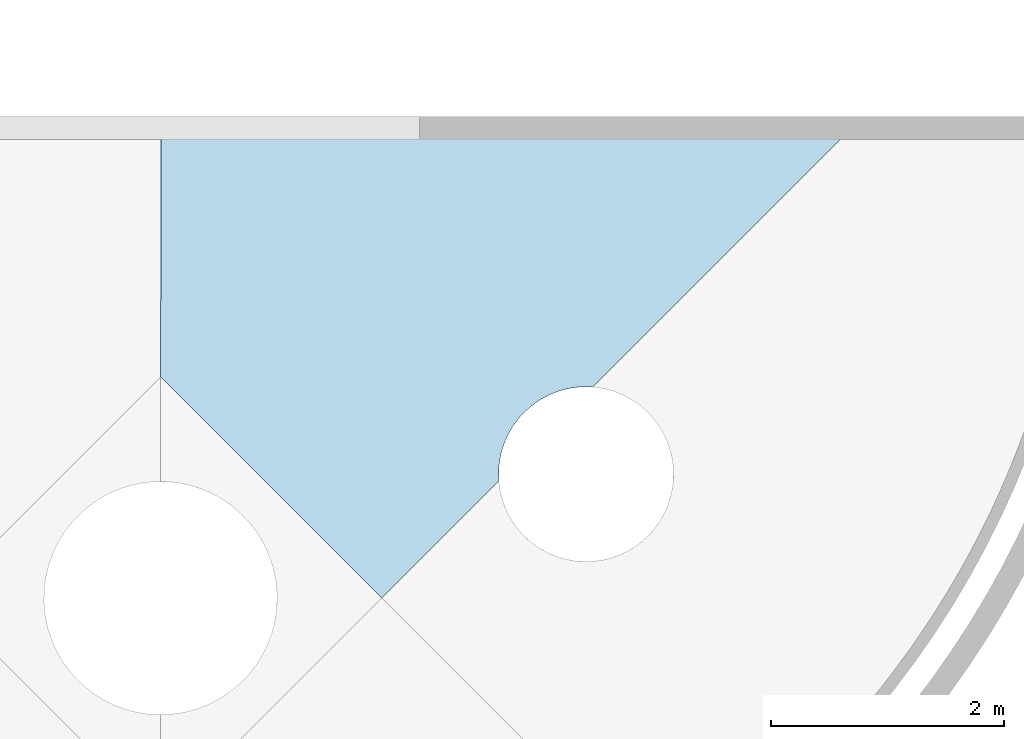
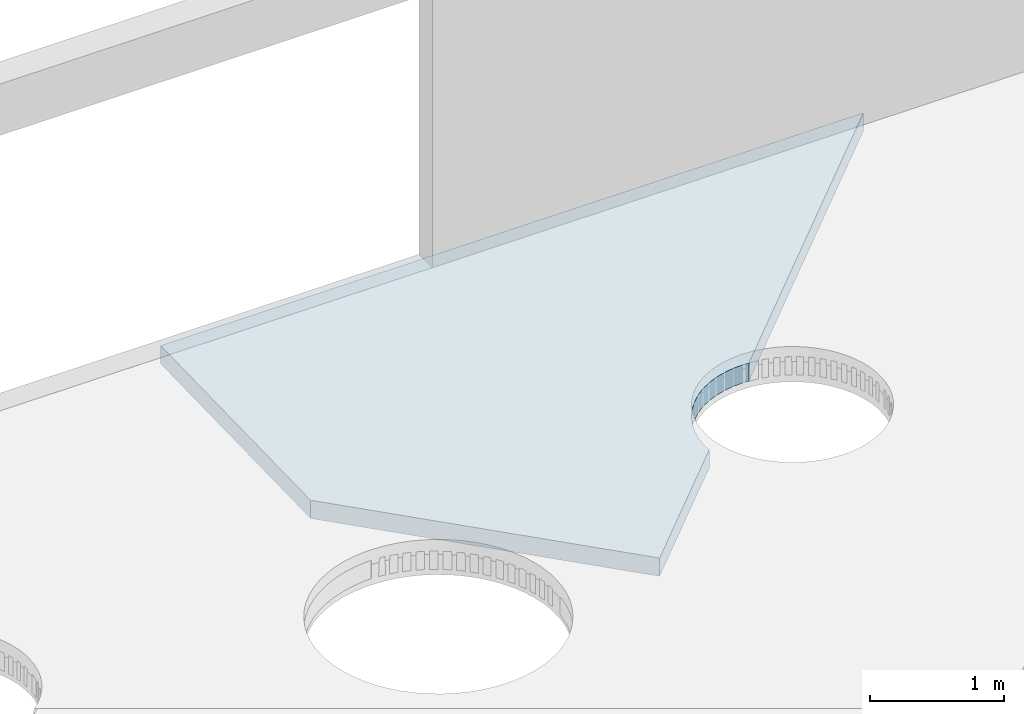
# One storey, part 6 of 10: 1 slab.
"""IFC4 building model written with IfcOpenShell, lengths in millimetres."""

from ifc_helpers import new_model, entity, si_unit, converted_unit, derived_unit, direction, frame, origin_with_axes, place, context, subcontext, project, spatial, polygons, material, constituent, constituent_set, type_object, element, save


model = new_model("IFC4")

# Units and contexts
model_context = context("Model", 3, precision=0.01, world=origin_with_axes(), true_north=direction((0.0, 1.0)))
body_context = subcontext(model_context, "Body", "Model", "MODEL_VIEW")
ifc_project = project(units=[si_unit("LENGTHUNIT", "METRE", prefix="MILLI"), si_unit("AREAUNIT", "SQUARE_METRE"), si_unit("VOLUMEUNIT", "CUBIC_METRE"), converted_unit("PLANEANGLEUNIT", "DEGREE", entity("IfcPlaneAngleMeasure", 0.0174532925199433), si_unit("PLANEANGLEUNIT", "RADIAN"), dimensions=[0, 0, 0, 0, 0, 0, 0]), converted_unit("TIMEUNIT", "Year", entity("IfcTimeMeasure", 31557600.0), si_unit("TIMEUNIT", "SECOND"), dimensions=[0, 0, 1, 0, 0, 0, 0]), si_unit("MASSUNIT", "GRAM", prefix="KILO"), si_unit("THERMODYNAMICTEMPERATUREUNIT", "DEGREE_CELSIUS"), si_unit("LUMINOUSINTENSITYUNIT", "LUMEN"), si_unit("ENERGYUNIT", "JOULE", prefix="MEGA"), derived_unit("THERMALCONDUCTANCEUNIT", [(si_unit("POWERUNIT", "WATT"), 1), (si_unit("LENGTHUNIT", "METRE"), -1), (si_unit("THERMODYNAMICTEMPERATUREUNIT", "KELVIN"), -1)]), derived_unit("SPECIFICHEATCAPACITYUNIT", [(si_unit("ENERGYUNIT", "JOULE"), 1), (si_unit("MASSUNIT", "GRAM", prefix="KILO"), -1), (si_unit("THERMODYNAMICTEMPERATUREUNIT", "KELVIN"), -1)]), derived_unit("MASSDENSITYUNIT", [(si_unit("MASSUNIT", "GRAM", prefix="KILO"), 1), (si_unit("VOLUMEUNIT", "CUBIC_METRE"), -1)])], contexts=[model_context])

# Site, building, storey
site_placement = place(None, origin_with_axes())
site = spatial("IfcSite", under=ifc_project, at=site_placement, Name="Exteriér", CompositionType="ELEMENT")
building_placement = place(site_placement, origin_with_axes())
building = spatial("IfcBuilding", under=site, at=building_placement, Name="Univerzitní lezecké centrum", CompositionType="ELEMENT")
storey_placement = place(building_placement, frame((0.0, 0.0, 9600.000000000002), z_axis=(0.0, 0.0, 1.0), x_axis=(1.0, 0.0, 0.0)))
storey = spatial("IfcBuildingStorey", under=building, at=storey_placement, Name="4.NP", CompositionType="ELEMENT", Elevation=9600.0)

# Slab
ifc_material_1 = material(Name="TPO fólie ochranná")
ifc_constituent_1 = constituent(ifc_material_1, Name="TPO fólie ochranná")
ifc_material_2 = material(Name="Geotextilie 200 g/m2")
ifc_constituent_2 = constituent(ifc_material_2, Name="Geotextilie 200 g/m2")
ifc_material_3 = material(Name="Hydroizolace - TPO fólie")
ifc_constituent_3 = constituent(ifc_material_3, Name="Hydroizolace - TPO fólie")
ifc_material_4 = material(Name="Tepelná izolace - polystyren EPS podlahy")
ifc_constituent_4 = constituent(ifc_material_4, Name="Tepelná izolace - polystyren EPS podlahy")
ifc_constituent_set = constituent_set(constituents=[ifc_constituent_1, ifc_constituent_2, ifc_constituent_3, ifc_constituent_4], Name="!Podlaha spádovaná - terasy - TI + HI vrstva")
slab_type = type_object("IfcSlabType", Name="!Podlaha spádovaná - terasy - TI + HI vrstva 166", PredefinedType="ROOF")
slab_placement = place(storey_placement, frame((4459.647534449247, -4444.297170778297, -300.0062110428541), z_axis=(0.0, 0.0, 1.0), x_axis=(0.9999973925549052, -0.002283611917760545, 0.0)))
element("IfcSlab", 1, at=slab_placement, inside=storey, type_object=slab_type, material=ifc_constituent_set, PredefinedType="ROOF", context=body_context, shape_type="Tessellation", body=[
    polygons([(-2014.040529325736, 4140.013164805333, 248.8334599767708), (-2014.140000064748, 1900.000030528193, 204.0331972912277), (-109.8054002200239, 4.0332646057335, 166.1138619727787), (896.2517576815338, 1014.695749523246, 186.3271116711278), (892.9520154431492, 1093.504988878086, 187.9032964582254), (900.3676057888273, 1180.554755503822, 189.6442917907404), (917.8389156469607, 1266.155025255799, 191.3562971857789), (945.1296755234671, 1349.148201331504, 193.0161607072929), (981.8708247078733, 1428.41194339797, 194.6014355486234), (1027.565502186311, 1502.874345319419, 196.0906835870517), (1081.595765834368, 1571.528430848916, 197.4637652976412), (1112.41335742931, 1602.487101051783, 198.0829387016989), (1170.062229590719, 1656.323637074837, 199.1596694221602), (1240.943371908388, 1707.39728266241, 200.1811423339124), (1317.274529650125, 1749.896788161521, 201.0311324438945), (1398.02345485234, 1783.247420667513, 201.6981450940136), (1482.098156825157, 1806.998170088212, 202.1731600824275), (1568.361669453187, 1820.827848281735, 202.4497536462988), (1655.647426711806, 1824.549432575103, 202.524185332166), (1699.211232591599, 1821.331013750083, 202.4598169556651), (4020.743059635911, 4153.490092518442, 249.1029985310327), (-2014.04053110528, 4140.013164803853, 246.8330600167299), (-2014.140001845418, 1900.000032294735, 202.0327973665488), (-109.8054002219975, 4.033264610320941, 164.1134620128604), (896.253364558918, 1014.697363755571, 184.326743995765), (892.9520154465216, 1093.544980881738, 185.9036963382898), (900.3617583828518, 1180.526106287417, 187.6433188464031), (917.8389156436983, 1266.155025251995, 189.3558972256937), (945.1296755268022, 1349.148201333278, 191.0157607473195), (981.8708247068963, 1428.411943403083, 192.6010355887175), (1027.565502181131, 1502.874345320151, 194.090283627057), (1081.595765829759, 1571.528430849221, 195.4633653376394), (1112.413357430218, 1602.487101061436, 196.0825387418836), (1170.062229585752, 1656.323637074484, 197.1592694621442), (1240.943371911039, 1707.397282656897, 198.1807423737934), (1317.274529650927, 1749.896788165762, 199.0307324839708), (1398.023454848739, 1783.247420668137, 199.6977451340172), (1482.098156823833, 1806.998170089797, 200.1727601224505), (1568.361669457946, 1820.827848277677, 200.4493536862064), (1655.647426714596, 1824.54943257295, 200.5237853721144), (1699.211232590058, 1821.331013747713, 200.4594169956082), (4020.743059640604, 4153.490092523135, 247.1025985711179)], [[[1, 2, 3, 4, 5, 6, 7, 8, 9, 10, 11, 12, 13, 14, 15, 16, 17, 18, 19, 20, 21]], [[1, 22, 23, 2]], [[2, 23, 24, 3]], [[3, 24, 25, 4]], [[4, 25, 26, 5]], [[5, 26, 27, 6]], [[6, 27, 28, 7]], [[7, 28, 29, 8]], [[8, 29, 30, 9]], [[9, 30, 31, 10]], [[10, 31, 32, 11]], [[11, 32, 33, 12]], [[12, 33, 34, 13]], [[13, 34, 35, 14]], [[14, 35, 36, 15]], [[15, 36, 37, 16]], [[16, 37, 38, 17]], [[17, 38, 39, 18]], [[18, 39, 40, 19]], [[19, 40, 41, 20]], [[20, 41, 42, 21]], [[21, 42, 22, 1]], [[22, 42, 41, 40, 39, 38, 37, 36, 35, 34, 33, 32, 31, 30, 29, 28, 27, 26, 25, 24, 23]]], closed=True),
    polygons([(4020.743059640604, 4153.490092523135, 247.1025985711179), (4020.743059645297, 4153.490092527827, 245.1021986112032), (-2014.040532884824, 4140.013164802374, 244.8326600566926), (-2014.04053110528, 4140.013164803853, 246.8330600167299), (1699.211232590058, 1821.331013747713, 200.4594169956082), (1699.211232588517, 1821.331013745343, 198.4590170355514), (1655.647426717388, 1824.549432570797, 198.5233854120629), (1568.361669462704, 1820.827848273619, 198.4489537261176), (1482.098156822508, 1806.998170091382, 198.1723601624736), (1398.023454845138, 1783.247420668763, 197.6973451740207), (1317.274529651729, 1749.896788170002, 197.0303325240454), (1240.94337191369, 1707.397282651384, 196.1803424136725), (1170.062229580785, 1656.32363707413, 195.1588695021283), (1112.413357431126, 1602.487101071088, 194.0821387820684), (1081.595765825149, 1571.528430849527, 193.4629653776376), (1027.565502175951, 1502.874345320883, 192.0898836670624), (981.8708247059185, 1428.411943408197, 190.6006356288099), (945.1296755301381, 1349.148201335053, 189.0153607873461), (917.8389156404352, 1266.15502524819, 187.3554972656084), (900.3559109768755, 1180.497457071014, 185.6423459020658), (892.9520154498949, 1093.58497288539, 183.9040962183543), (896.254971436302, 1014.698977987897, 182.3263763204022), (-109.805400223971, 4.033264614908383, 162.1130620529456), (-2014.140003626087, 1900.000034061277, 200.0323974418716), (-2014.140001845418, 1900.000032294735, 202.0327973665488), (-109.8054002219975, 4.033264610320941, 164.1134620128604), (896.253364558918, 1014.697363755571, 184.326743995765), (892.9520154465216, 1093.544980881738, 185.9036963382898), (900.3617583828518, 1180.526106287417, 187.6433188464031), (917.8389156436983, 1266.155025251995, 189.3558972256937), (945.1296755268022, 1349.148201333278, 191.0157607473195), (981.8708247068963, 1428.411943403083, 192.6010355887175), (1027.565502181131, 1502.874345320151, 194.090283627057), (1081.595765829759, 1571.528430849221, 195.4633653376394), (1112.413357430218, 1602.487101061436, 196.0825387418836), (1170.062229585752, 1656.323637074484, 197.1592694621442), (1240.943371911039, 1707.397282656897, 198.1807423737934), (1317.274529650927, 1749.896788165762, 199.0307324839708), (1398.023454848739, 1783.247420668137, 199.6977451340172), (1482.098156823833, 1806.998170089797, 200.1727601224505), (1568.361669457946, 1820.827848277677, 200.4493536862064), (1655.647426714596, 1824.54943257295, 200.5237853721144)], [[[1, 2, 3, 4]], [[5, 6, 2, 1]], [[3, 2, 6, 7, 8, 9, 10, 11, 12, 13, 14, 15, 16, 17, 18, 19, 20, 21, 22, 23, 24]], [[4, 3, 24, 25]], [[4, 25, 26, 27, 28, 29, 30, 31, 32, 33, 34, 35, 36, 37, 38, 39, 40, 41, 42, 5, 1]], [[42, 7, 6, 5]], [[41, 8, 7, 42]], [[40, 9, 8, 41]], [[39, 10, 9, 40]], [[38, 11, 10, 39]], [[37, 12, 11, 38]], [[36, 13, 12, 37]], [[35, 14, 13, 36]], [[34, 15, 14, 35]], [[33, 16, 15, 34]], [[32, 17, 16, 33]], [[31, 18, 17, 32]], [[30, 19, 18, 31]], [[29, 20, 19, 30]], [[28, 21, 20, 29]], [[27, 22, 21, 28]], [[26, 23, 22, 27]], [[25, 24, 23, 26]]], closed=True),
    polygons([(4020.743059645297, 4153.490092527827, 245.102198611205), (4020.74305964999, 4153.490092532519, 243.1017986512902), (-2014.040534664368, 4140.013164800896, 242.832260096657), (-2014.040532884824, 4140.013164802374, 244.8326600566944), (1699.211232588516, 1821.331013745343, 198.4590170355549), (1699.211232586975, 1821.331013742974, 196.4586170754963), (1655.647426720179, 1824.549432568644, 196.5229854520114), (1568.361669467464, 1820.827848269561, 196.4485537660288), (1482.098156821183, 1806.998170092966, 196.1719602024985), (1398.023454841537, 1783.247420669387, 195.696945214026), (1317.274529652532, 1749.896788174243, 195.0299325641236), (1240.94337191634, 1707.397282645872, 194.1799424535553), (1170.062229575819, 1656.323637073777, 193.158469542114), (1112.413357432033, 1602.487101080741, 192.0817388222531), (1081.59576582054, 1571.528430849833, 191.4625654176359), (1027.565502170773, 1502.874345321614, 190.0894837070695), (981.8708247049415, 1428.41194341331, 188.6002356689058), (945.1296755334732, 1349.148201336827, 187.0149608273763), (917.8389156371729, 1266.155025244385, 185.3550973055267), (900.3500635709, 1180.468807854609, 183.6413729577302), (892.9520154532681, 1093.624964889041, 181.9044960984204), (896.256578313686, 1014.700592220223, 180.3260086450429), (-109.8054002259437, 4.033264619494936, 160.1126620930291), (-2014.140005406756, 1900.000035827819, 198.0319975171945), (-2014.140003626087, 1900.000034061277, 200.0323974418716), (-109.8054002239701, 4.033264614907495, 162.1130620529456), (896.254971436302, 1014.698977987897, 182.3263763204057), (892.9520154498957, 1093.58497288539, 183.904096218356), (900.3559109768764, 1180.497457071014, 185.6423459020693), (917.8389156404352, 1266.15502524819, 187.355497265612), (945.1296755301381, 1349.148201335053, 189.0153607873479), (981.8708247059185, 1428.411943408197, 190.6006356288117), (1027.565502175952, 1502.874345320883, 192.0898836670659), (1081.59576582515, 1571.528430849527, 193.4629653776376), (1112.413357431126, 1602.487101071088, 194.0821387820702), (1170.062229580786, 1656.32363707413, 195.15886950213), (1240.94337191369, 1707.397282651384, 196.1803424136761), (1317.27452965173, 1749.896788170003, 197.030332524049), (1398.023454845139, 1783.247420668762, 197.6973451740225), (1482.098156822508, 1806.998170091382, 198.1723601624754), (1568.361669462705, 1820.827848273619, 198.4489537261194), (1655.647426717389, 1824.549432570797, 198.5233854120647)], [[[1, 2, 3, 4]], [[5, 6, 2, 1]], [[3, 2, 6, 7, 8, 9, 10, 11, 12, 13, 14, 15, 16, 17, 18, 19, 20, 21, 22, 23, 24]], [[4, 3, 24, 25]], [[4, 25, 26, 27, 28, 29, 30, 31, 32, 33, 34, 35, 36, 37, 38, 39, 40, 41, 42, 5, 1]], [[42, 7, 6, 5]], [[41, 8, 7, 42]], [[40, 9, 8, 41]], [[39, 10, 9, 40]], [[38, 11, 10, 39]], [[37, 12, 11, 38]], [[36, 13, 12, 37]], [[35, 14, 13, 36]], [[34, 15, 14, 35]], [[33, 16, 15, 34]], [[32, 17, 16, 33]], [[31, 18, 17, 32]], [[30, 19, 18, 31]], [[29, 20, 19, 30]], [[28, 21, 20, 29]], [[27, 22, 21, 28]], [[26, 23, 22, 27]], [[25, 24, 23, 26]]], closed=True),
    polygons([(4020.743059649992, 4153.490092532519, 243.1017986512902), (4020.743060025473, 4153.490092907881, 83.06980165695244), (-2014.04067702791, 4140.013164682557, 82.80026309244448), (-2014.040534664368, 4140.013164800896, 242.8322600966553), (1699.211232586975, 1821.331013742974, 196.4586170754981), (1699.211232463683, 1821.331013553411, 36.42662006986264), (1655.64742694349, 1824.549432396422, 36.49098844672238), (1568.361669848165, 1820.82784794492, 36.41655675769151), (1482.098156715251, 1806.998170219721, 36.13996320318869), (1398.02345455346, 1783.247420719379, 35.66494821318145), (1317.274529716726, 1749.896788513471, 34.99793556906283), (1240.943372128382, 1707.397282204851, 34.14794544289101), (1170.0622291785, 1656.323637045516, 33.12647253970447), (1112.41335750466, 1602.487101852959, 32.04974183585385), (1081.595765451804, 1571.52843087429, 31.43056841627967), (1027.565501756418, 1502.874345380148, 30.05748670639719), (981.8708246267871, 1428.411943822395, 28.56823867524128), (945.1296758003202, 1349.148201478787, 26.98296382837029), (917.8389153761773, 1266.15502494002, 25.32310029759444), (899.8822710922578, 1178.176870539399, 23.56353720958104), (892.9520157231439, 1096.824325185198, 21.93648630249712), (896.3851285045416, 1014.829730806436, 20.29659441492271), (-109.8054003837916, 4.033264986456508, 0.08066509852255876), (-2014.140147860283, 1900.000177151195, 38.00000334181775), (-2014.140005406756, 1900.000035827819, 198.0319975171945), (-109.8054002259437, 4.033264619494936, 160.1126620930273), (896.256578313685, 1014.700592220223, 180.3260086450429), (892.9520154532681, 1093.624964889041, 181.9044960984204), (900.3500635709, 1180.468807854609, 183.641372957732), (917.8389156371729, 1266.155025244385, 185.3550973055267), (945.1296755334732, 1349.148201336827, 187.0149608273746), (981.8708247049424, 1428.41194341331, 188.6002356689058), (1027.565502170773, 1502.874345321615, 190.0894837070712), (1081.59576582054, 1571.528430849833, 191.4625654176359), (1112.413357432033, 1602.487101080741, 192.0817388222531), (1170.062229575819, 1656.323637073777, 193.158469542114), (1240.94337191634, 1707.397282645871, 194.1799424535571), (1317.274529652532, 1749.896788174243, 195.0299325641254), (1398.023454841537, 1783.247420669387, 195.696945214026), (1482.098156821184, 1806.998170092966, 196.1719602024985), (1568.361669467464, 1820.827848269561, 196.4485537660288), (1655.647426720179, 1824.549432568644, 196.5229854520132)], [[[1, 2, 3, 4]], [[5, 6, 2, 1]], [[2, 6, 7, 8, 9, 10, 11, 12, 13, 14, 15, 16, 17, 18, 19, 20, 21, 22, 23, 24, 3]], [[4, 3, 24, 25]], [[4, 25, 26, 27, 28, 29, 30, 31, 32, 33, 34, 35, 36, 37, 38, 39, 40, 41, 42, 5, 1]], [[42, 7, 6, 5]], [[41, 8, 7, 42]], [[40, 9, 8, 41]], [[39, 10, 9, 40]], [[38, 11, 10, 39]], [[37, 12, 11, 38]], [[36, 13, 12, 37]], [[35, 14, 13, 36]], [[34, 15, 14, 35]], [[33, 16, 15, 34]], [[32, 17, 16, 33]], [[31, 18, 17, 32]], [[30, 19, 18, 31]], [[29, 20, 19, 30]], [[28, 21, 20, 29]], [[27, 22, 21, 28]], [[26, 23, 22, 27]], [[25, 24, 23, 26]]], closed=True),
])

save(model, "model.ifc")
